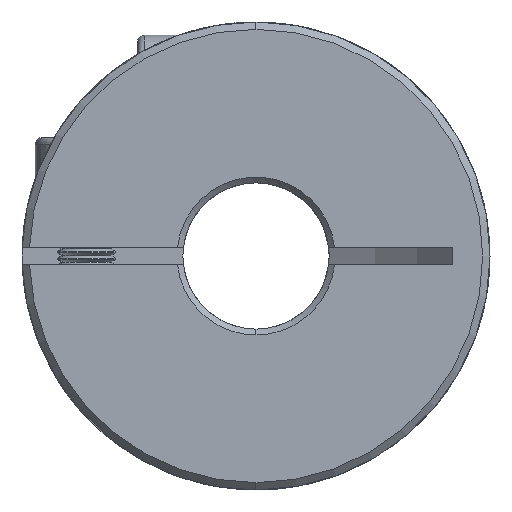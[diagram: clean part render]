
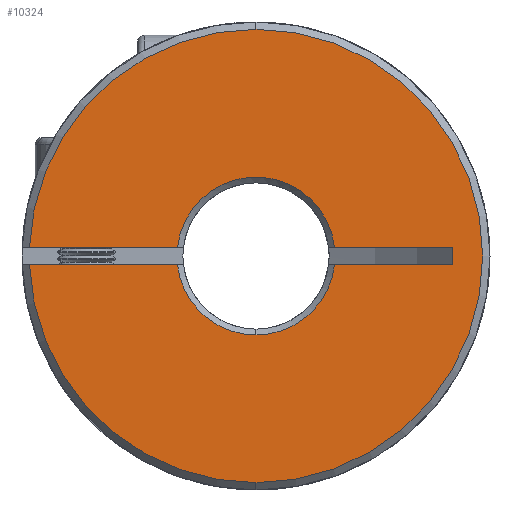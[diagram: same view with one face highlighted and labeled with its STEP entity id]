
A CAD part, front view. The second image highlights one B-rep face of the part: STEP entity #10324.
In plain terms, the highlighted planar face has unit normal (0, -1, 0).
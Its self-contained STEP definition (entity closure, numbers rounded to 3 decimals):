
#46 = VECTOR ( 'NONE', #4039, 1000. ) ;
#152 = CIRCLE ( 'NONE', #2167, 5.4 ) ;
#215 = VERTEX_POINT ( 'NONE', #3038 ) ;
#326 = CARTESIAN_POINT ( 'NONE',  ( 0., 0., 0. ) ) ;
#327 = EDGE_CURVE ( 'NONE', #8973, #215, #392, .T. ) ;
#390 = CARTESIAN_POINT ( 'NONE',  ( 0., 0., 0. ) ) ;
#392 = CIRCLE ( 'NONE', #7732, 5.4 ) ;
#499 = VERTEX_POINT ( 'NONE', #10604 ) ;
#520 = CARTESIAN_POINT ( 'NONE',  ( 0., 0., -5.4 ) ) ;
#733 = CARTESIAN_POINT ( 'NONE',  ( -15.488, 0., -0.6 ) ) ;
#820 = PLANE ( 'NONE',  #3700 ) ;
#824 = VERTEX_POINT ( 'NONE', #6780 ) ;
#909 = AXIS2_PLACEMENT_3D ( 'NONE', #390, #2927, #2197 ) ;
#928 = DIRECTION ( 'NONE',  ( 0., 1., 0. ) ) ;
#1053 = CARTESIAN_POINT ( 'NONE',  ( 13.436, 0., 0.6 ) ) ;
#1103 = ORIENTED_EDGE ( 'NONE', *, *, #9284, .T. ) ;
#1125 = EDGE_LOOP ( 'NONE', ( #3287, #8398, #7876, #9448, #1603, #1103, #11008, #9515, #7395, #6356, #1718 ) ) ;
#1150 = CIRCLE ( 'NONE', #909, 15.5 ) ;
#1532 = AXIS2_PLACEMENT_3D ( 'NONE', #8093, #8915, #7977 ) ;
#1603 = ORIENTED_EDGE ( 'NONE', *, *, #10857, .T. ) ;
#1718 = ORIENTED_EDGE ( 'NONE', *, *, #327, .T. ) ;
#1752 = VERTEX_POINT ( 'NONE', #4450 ) ;
#2017 = CIRCLE ( 'NONE', #1532, 15.5 ) ;
#2167 = AXIS2_PLACEMENT_3D ( 'NONE', #326, #10768, #3798 ) ;
#2197 = DIRECTION ( 'NONE',  ( 0., 0., 1. ) ) ;
#2469 = CARTESIAN_POINT ( 'NONE',  ( -50., 0., -0.6 ) ) ;
#2478 = CARTESIAN_POINT ( 'NONE',  ( -50., 0., -18.413 ) ) ;
#2749 = CARTESIAN_POINT ( 'NONE',  ( 0., 0., -15.5 ) ) ;
#2927 = DIRECTION ( 'NONE',  ( 0., -1., 0. ) ) ;
#3038 = CARTESIAN_POINT ( 'NONE',  ( -5.367, 0., -0.6 ) ) ;
#3287 = ORIENTED_EDGE ( 'NONE', *, *, #3747, .F. ) ;
#3334 = CARTESIAN_POINT ( 'NONE',  ( 0., 0., 0. ) ) ;
#3337 = CARTESIAN_POINT ( 'NONE',  ( -50., 0., 0.6 ) ) ;
#3700 = AXIS2_PLACEMENT_3D ( 'NONE', #2478, #6882, #8558 ) ;
#3717 = LINE ( 'NONE', #8509, #6153 ) ;
#3747 = EDGE_CURVE ( 'NONE', #5016, #215, #10409, .T. ) ;
#3798 = DIRECTION ( 'NONE',  ( 0., 0., 1. ) ) ;
#3959 = CIRCLE ( 'NONE', #10608, 15.5 ) ;
#3970 = AXIS2_PLACEMENT_3D ( 'NONE', #8636, #928, #7888 ) ;
#4039 = DIRECTION ( 'NONE',  ( 0., 0., -1. ) ) ;
#4230 = EDGE_CURVE ( 'NONE', #5016, #8426, #1150, .T. ) ;
#4292 = CARTESIAN_POINT ( 'NONE',  ( 5.367, 0., 0.6 ) ) ;
#4450 = CARTESIAN_POINT ( 'NONE',  ( 13.436, 0., -0.6 ) ) ;
#5016 = VERTEX_POINT ( 'NONE', #733 ) ;
#5109 = CARTESIAN_POINT ( 'NONE',  ( 13.436, 0., -0.6 ) ) ;
#5160 = CIRCLE ( 'NONE', #3970, 5.4 ) ;
#5301 = FACE_OUTER_BOUND ( 'NONE', #1125, .T. ) ;
#5345 = CARTESIAN_POINT ( 'NONE',  ( -50., 0., -0.6 ) ) ;
#5349 = CARTESIAN_POINT ( 'NONE',  ( 5.367, 0., -0.6 ) ) ;
#5610 = VERTEX_POINT ( 'NONE', #4292 ) ;
#5850 = VERTEX_POINT ( 'NONE', #6189 ) ;
#6153 = VECTOR ( 'NONE', #8429, 1000. ) ;
#6189 = CARTESIAN_POINT ( 'NONE',  ( 0., 0., 15.5 ) ) ;
#6356 = ORIENTED_EDGE ( 'NONE', *, *, #8309, .T. ) ;
#6682 = DIRECTION ( 'NONE',  ( 1., 0., 0. ) ) ;
#6780 = CARTESIAN_POINT ( 'NONE',  ( -5.367, 0., 0.6 ) ) ;
#6882 = DIRECTION ( 'NONE',  ( 0., 1., 0. ) ) ;
#7120 = EDGE_CURVE ( 'NONE', #8426, #5850, #3959, .T. ) ;
#7351 = EDGE_CURVE ( 'NONE', #8504, #1752, #7897, .T. ) ;
#7395 = ORIENTED_EDGE ( 'NONE', *, *, #7351, .F. ) ;
#7687 = DIRECTION ( 'NONE',  ( 0., 0., 1. ) ) ;
#7692 = EDGE_CURVE ( 'NONE', #10240, #1752, #7755, .T. ) ;
#7732 = AXIS2_PLACEMENT_3D ( 'NONE', #3334, #9436, #7687 ) ;
#7755 = LINE ( 'NONE', #5109, #46 ) ;
#7876 = ORIENTED_EDGE ( 'NONE', *, *, #7120, .T. ) ;
#7888 = DIRECTION ( 'NONE',  ( 0., 0., 1. ) ) ;
#7897 = LINE ( 'NONE', #5345, #8301 ) ;
#7977 = DIRECTION ( 'NONE',  ( 0., 0., 1. ) ) ;
#8093 = CARTESIAN_POINT ( 'NONE',  ( 0., 0., 0. ) ) ;
#8276 = VECTOR ( 'NONE', #9437, 1000. ) ;
#8301 = VECTOR ( 'NONE', #8896, 1000. ) ;
#8309 = EDGE_CURVE ( 'NONE', #8504, #8973, #5160, .T. ) ;
#8398 = ORIENTED_EDGE ( 'NONE', *, *, #4230, .T. ) ;
#8426 = VERTEX_POINT ( 'NONE', #2749 ) ;
#8429 = DIRECTION ( 'NONE',  ( 1., 0., 0. ) ) ;
#8473 = DIRECTION ( 'NONE',  ( 0., -1., 0. ) ) ;
#8479 = VECTOR ( 'NONE', #6682, 1000. ) ;
#8504 = VERTEX_POINT ( 'NONE', #5349 ) ;
#8509 = CARTESIAN_POINT ( 'NONE',  ( -50., 0., 0.6 ) ) ;
#8511 = DIRECTION ( 'NONE',  ( 0., 0., 1. ) ) ;
#8558 = DIRECTION ( 'NONE',  ( 0., 0., 1. ) ) ;
#8636 = CARTESIAN_POINT ( 'NONE',  ( 0., 0., 0. ) ) ;
#8866 = EDGE_CURVE ( 'NONE', #5610, #10240, #10622, .T. ) ;
#8896 = DIRECTION ( 'NONE',  ( 1., 0., 0. ) ) ;
#8915 = DIRECTION ( 'NONE',  ( 0., -1., 0. ) ) ;
#8973 = VERTEX_POINT ( 'NONE', #520 ) ;
#9284 = EDGE_CURVE ( 'NONE', #824, #5610, #152, .T. ) ;
#9436 = DIRECTION ( 'NONE',  ( 0., 1., 0. ) ) ;
#9437 = DIRECTION ( 'NONE',  ( 1., 0., 0. ) ) ;
#9448 = ORIENTED_EDGE ( 'NONE', *, *, #10100, .T. ) ;
#9515 = ORIENTED_EDGE ( 'NONE', *, *, #7692, .T. ) ;
#10100 = EDGE_CURVE ( 'NONE', #5850, #499, #2017, .T. ) ;
#10240 = VERTEX_POINT ( 'NONE', #1053 ) ;
#10324 = ADVANCED_FACE ( 'NONE', ( #5301 ), #820, .F. ) ;
#10409 = LINE ( 'NONE', #2469, #8479 ) ;
#10604 = CARTESIAN_POINT ( 'NONE',  ( -15.488, 0., 0.6 ) ) ;
#10608 = AXIS2_PLACEMENT_3D ( 'NONE', #10883, #8473, #8511 ) ;
#10622 = LINE ( 'NONE', #3337, #8276 ) ;
#10768 = DIRECTION ( 'NONE',  ( 0., 1., 0. ) ) ;
#10857 = EDGE_CURVE ( 'NONE', #499, #824, #3717, .T. ) ;
#10883 = CARTESIAN_POINT ( 'NONE',  ( 0., 0., 0. ) ) ;
#11008 = ORIENTED_EDGE ( 'NONE', *, *, #8866, .T. ) ;
